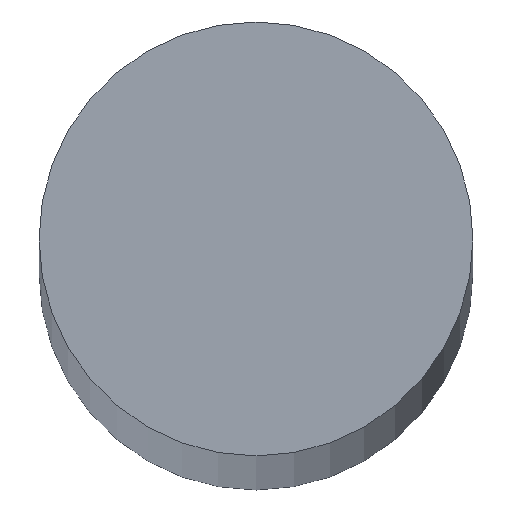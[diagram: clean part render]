
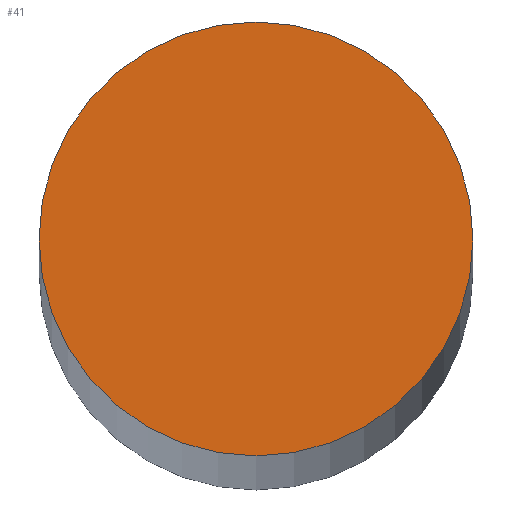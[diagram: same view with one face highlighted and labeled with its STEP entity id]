
A CAD part, top view. The second image highlights one B-rep face of the part: STEP entity #41.
In plain terms, the highlighted planar face has unit normal (0, 0, 1).
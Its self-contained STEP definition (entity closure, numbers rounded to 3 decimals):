
#16=PLANE('',#66);
#19=FACE_OUTER_BOUND('',#22,.T.);
#22=EDGE_LOOP('',(#37));
#25=CIRCLE('',#63,10.);
#27=VERTEX_POINT('',#82);
#29=EDGE_CURVE('',#27,#27,#25,.T.);
#37=ORIENTED_EDGE('',*,*,#29,.T.);
#41=ADVANCED_FACE('',(#19),#16,.T.);
#63=AXIS2_PLACEMENT_3D('',#83,#71,#72);
#66=AXIS2_PLACEMENT_3D('',#88,#78,#79);
#71=DIRECTION('center_axis',(0.,0.,1.));
#72=DIRECTION('ref_axis',(-1.,0.,0.));
#78=DIRECTION('center_axis',(0.,0.,1.));
#79=DIRECTION('ref_axis',(1.,0.,0.));
#82=CARTESIAN_POINT('',(10.,0.,900.));
#83=CARTESIAN_POINT('Origin',(0.,0.,900.));
#88=CARTESIAN_POINT('Origin',(0.,0.,900.));
